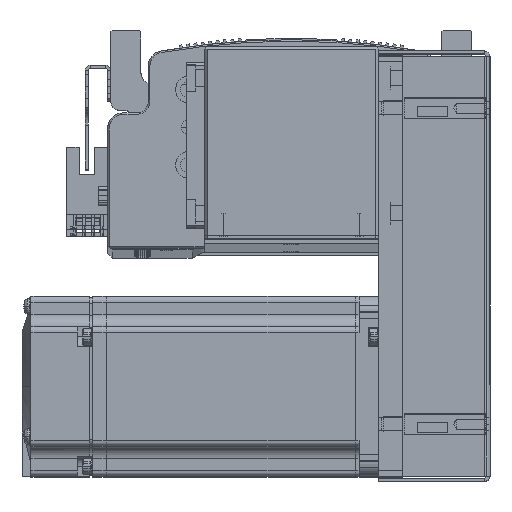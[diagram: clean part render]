
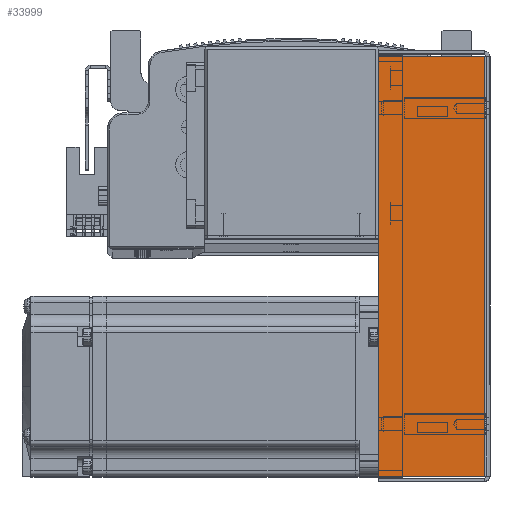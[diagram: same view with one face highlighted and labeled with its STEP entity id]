
A CAD part, top view. The second image highlights one B-rep face of the part: STEP entity #33999.
In plain terms, the highlighted planar face has unit normal (0, 0, 1).
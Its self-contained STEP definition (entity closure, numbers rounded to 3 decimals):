
#1025 = FACE_OUTER_BOUND ( 'NONE', #26069, .T. ) ;
#24634 = EDGE_CURVE ( 'NONE', #29529, #29547, #43968, .T. ) ;
#24773 = EDGE_CURVE ( 'NONE', #29529, #29550, #44183, .T. ) ;
#24776 = EDGE_CURVE ( 'NONE', #29550, #29532, #44193, .T. ) ;
#24806 = EDGE_CURVE ( 'NONE', #29547, #29532, #44312, .T. ) ;
#26069 = EDGE_LOOP ( 'NONE', ( #50128, #50179, #50163, #50130 ) ) ;
#27279 = CARTESIAN_POINT ( 'NONE',  ( -69.793, 36., 33.5 ) ) ;
#27286 = CARTESIAN_POINT ( 'NONE',  ( 69.793, 0.737, 33.5 ) ) ;
#27384 = CARTESIAN_POINT ( 'NONE',  ( 69.793, 36., 33.5 ) ) ;
#27387 = CARTESIAN_POINT ( 'NONE',  ( -69.793, 0.737, 33.5 ) ) ;
#29529 = VERTEX_POINT ( 'NONE', #27286 ) ;
#29532 = VERTEX_POINT ( 'NONE', #27279 ) ;
#29547 = VERTEX_POINT ( 'NONE', #27387 ) ;
#29550 = VERTEX_POINT ( 'NONE', #27384 ) ;
#30281 = DIRECTION ( 'NONE',  ( 0., 1., 0. ) ) ;
#30283 = CARTESIAN_POINT ( 'NONE',  ( -69.793, 0., 33.5 ) ) ;
#33999 = ADVANCED_FACE ( 'NONE', ( #1025 ), #48541, .F. ) ;
#37196 = DIRECTION ( 'NONE',  ( -1., 0., 0. ) ) ;
#37221 = CARTESIAN_POINT ( 'NONE',  ( -71.5, 0.737, 33.5 ) ) ;
#37578 = CARTESIAN_POINT ( 'NONE',  ( 69.793, 0., 33.5 ) ) ;
#37584 = CARTESIAN_POINT ( 'NONE',  ( 0., 36., 33.5 ) ) ;
#37585 = DIRECTION ( 'NONE',  ( -1., 0., 0. ) ) ;
#37604 = DIRECTION ( 'NONE',  ( 0., 1., 0. ) ) ;
#43968 = LINE ( 'NONE', #37221, #44015 ) ;
#44015 = VECTOR ( 'NONE', #37196, 1000. ) ;
#44150 = VECTOR ( 'NONE', #37585, 1000. ) ;
#44174 = VECTOR ( 'NONE', #37604, 1000. ) ;
#44183 = LINE ( 'NONE', #37578, #44174 ) ;
#44193 = LINE ( 'NONE', #37584, #44150 ) ;
#44270 = VECTOR ( 'NONE', #30281, 1000. ) ;
#44312 = LINE ( 'NONE', #30283, #44270 ) ;
#48528 = DIRECTION ( 'NONE',  ( -1., 0., 0. ) ) ;
#48541 = PLANE ( 'NONE',  #78809 ) ;
#48542 = DIRECTION ( 'NONE',  ( 0., 0., -1. ) ) ;
#48545 = CARTESIAN_POINT ( 'NONE',  ( 0., 0., 33.5 ) ) ;
#50128 = ORIENTED_EDGE ( 'NONE', *, *, #24634, .F. ) ;
#50130 = ORIENTED_EDGE ( 'NONE', *, *, #24806, .F. ) ;
#50163 = ORIENTED_EDGE ( 'NONE', *, *, #24776, .T. ) ;
#50179 = ORIENTED_EDGE ( 'NONE', *, *, #24773, .T. ) ;
#78809 = AXIS2_PLACEMENT_3D ( 'NONE', #48545, #48542, #48528 ) ;
